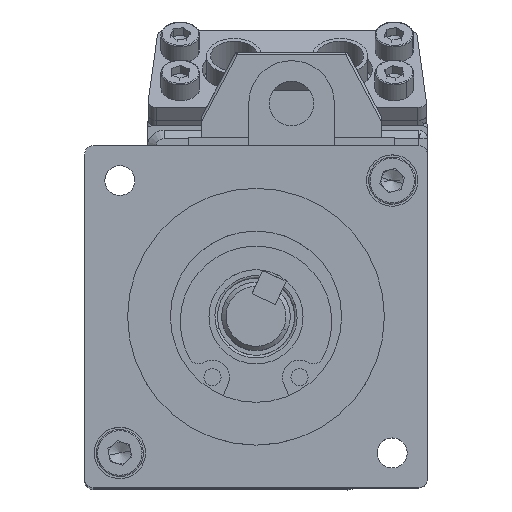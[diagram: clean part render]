
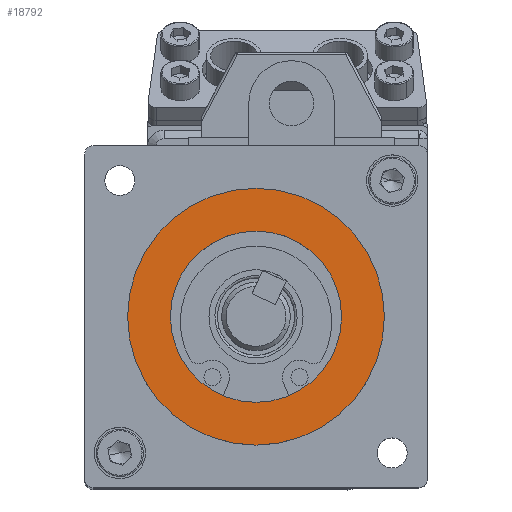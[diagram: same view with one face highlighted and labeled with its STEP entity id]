
A CAD part, top view. The second image highlights one B-rep face of the part: STEP entity #18792.
In plain terms, the highlighted planar face has unit normal (0, 0, 1).
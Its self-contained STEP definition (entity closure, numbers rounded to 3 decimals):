
#1599 = AXIS2_PLACEMENT_3D ( 'NONE', #23194, #7871, #25764 ) ;
#2445 = DIRECTION ( 'NONE',  ( 1., 0., 0. ) ) ;
#2980 = VERTEX_POINT ( 'NONE', #9401 ) ;
#4051 = EDGE_CURVE ( 'NONE', #2980, #10834, #10989, .T. ) ;
#4861 = EDGE_CURVE ( 'NONE', #5716, #23786, #32072, .T. ) ;
#5716 = VERTEX_POINT ( 'NONE', #29603 ) ;
#6546 = FACE_BOUND ( 'NONE', #16016, .T. ) ;
#7871 = DIRECTION ( 'NONE',  ( 0., 0., 1. ) ) ;
#8726 = PLANE ( 'NONE',  #18646 ) ;
#9087 = EDGE_LOOP ( 'NONE', ( #21729, #25339 ) ) ;
#9129 = EDGE_CURVE ( 'NONE', #10834, #2980, #18298, .T. ) ;
#9401 = CARTESIAN_POINT ( 'NONE',  ( 58.478, 20., 115.595 ) ) ;
#10834 = VERTEX_POINT ( 'NONE', #30442 ) ;
#10989 = CIRCLE ( 'NONE', #12651, 10. ) ;
#11171 = DIRECTION ( 'NONE',  ( 0., 0., 1. ) ) ;
#12651 = AXIS2_PLACEMENT_3D ( 'NONE', #14416, #32277, #16993 ) ;
#13953 = EDGE_CURVE ( 'NONE', #23786, #5716, #19584, .T. ) ;
#14416 = CARTESIAN_POINT ( 'NONE',  ( 68.478, 20., 115.595 ) ) ;
#16016 = EDGE_LOOP ( 'NONE', ( #18592, #20604 ) ) ;
#16337 = CARTESIAN_POINT ( 'NONE',  ( 53.478, 20., 115.595 ) ) ;
#16413 = DIRECTION ( 'NONE',  ( 1., 0., 0. ) ) ;
#16993 = DIRECTION ( 'NONE',  ( 1., 0., 0. ) ) ;
#17720 = DIRECTION ( 'NONE',  ( 0., 0., 1. ) ) ;
#18298 = CIRCLE ( 'NONE', #1599, 10. ) ;
#18592 = ORIENTED_EDGE ( 'NONE', *, *, #4051, .F. ) ;
#18646 = AXIS2_PLACEMENT_3D ( 'NONE', #24067, #31706, #16413 ) ;
#18792 = ADVANCED_FACE ( 'NONE', ( #6546, #25374 ), #8726, .T. ) ;
#19584 = CIRCLE ( 'NONE', #31998, 15. ) ;
#20604 = ORIENTED_EDGE ( 'NONE', *, *, #9129, .F. ) ;
#21729 = ORIENTED_EDGE ( 'NONE', *, *, #13953, .T. ) ;
#23194 = CARTESIAN_POINT ( 'NONE',  ( 68.478, 20., 115.595 ) ) ;
#23786 = VERTEX_POINT ( 'NONE', #16337 ) ;
#24067 = CARTESIAN_POINT ( 'NONE',  ( 68.478, 20., 115.595 ) ) ;
#25339 = ORIENTED_EDGE ( 'NONE', *, *, #4861, .T. ) ;
#25374 = FACE_OUTER_BOUND ( 'NONE', #9087, .T. ) ;
#25764 = DIRECTION ( 'NONE',  ( 1., 0., 0. ) ) ;
#26175 = AXIS2_PLACEMENT_3D ( 'NONE', #32995, #17720, #2445 ) ;
#26473 = CARTESIAN_POINT ( 'NONE',  ( 68.478, 20., 115.595 ) ) ;
#29062 = DIRECTION ( 'NONE',  ( 1., 0., 0. ) ) ;
#29603 = CARTESIAN_POINT ( 'NONE',  ( 83.478, 20., 115.595 ) ) ;
#30442 = CARTESIAN_POINT ( 'NONE',  ( 78.478, 20., 115.595 ) ) ;
#31706 = DIRECTION ( 'NONE',  ( 0., 0., 1. ) ) ;
#31998 = AXIS2_PLACEMENT_3D ( 'NONE', #26473, #11171, #29062 ) ;
#32072 = CIRCLE ( 'NONE', #26175, 15. ) ;
#32277 = DIRECTION ( 'NONE',  ( 0., 0., 1. ) ) ;
#32995 = CARTESIAN_POINT ( 'NONE',  ( 68.478, 20., 115.595 ) ) ;
